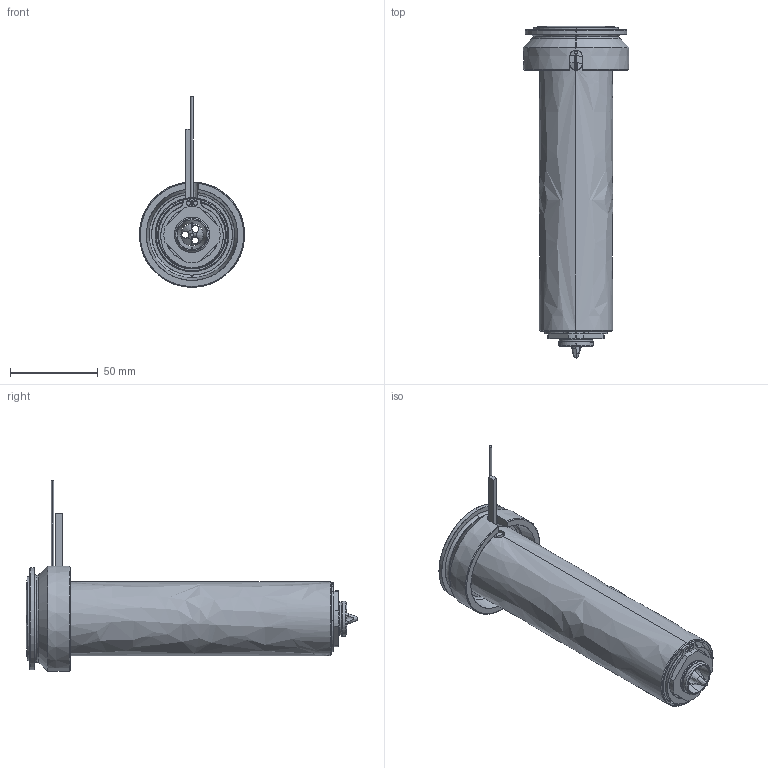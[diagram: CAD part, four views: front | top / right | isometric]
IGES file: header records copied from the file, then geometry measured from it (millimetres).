
Start section: SolidWorks IGES file using analytic representation for surfaces
Global section: file name: C:\Documents and Settings\ws-20\Desktop\TEM\UGEP6007-M-A-0 [Øf-1.9 ØC-16].IGS; native system: SolidWorks 2012; preprocessor: SolidWorks 2012; author: ws-20; date: 120427.094146; units: millimetre
Bounding box: 60 x 189.05 x 108.65 mm (x, y, z)
Surface area: 89185.6 mm2 (no closed solid volume)
Topology: 0 solids, 0 shells, 128 faces, 2507 edges, 2507 vertices
Faces by surface type: revolution 81, bspline 47
